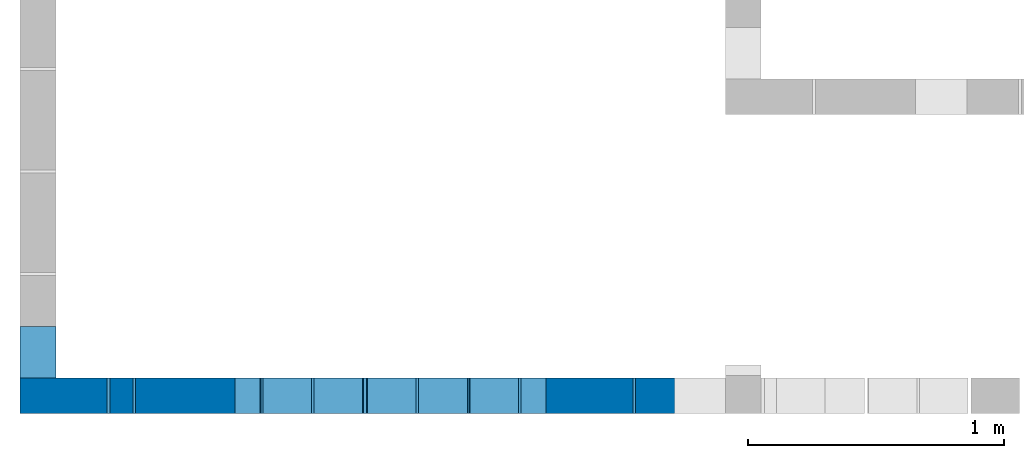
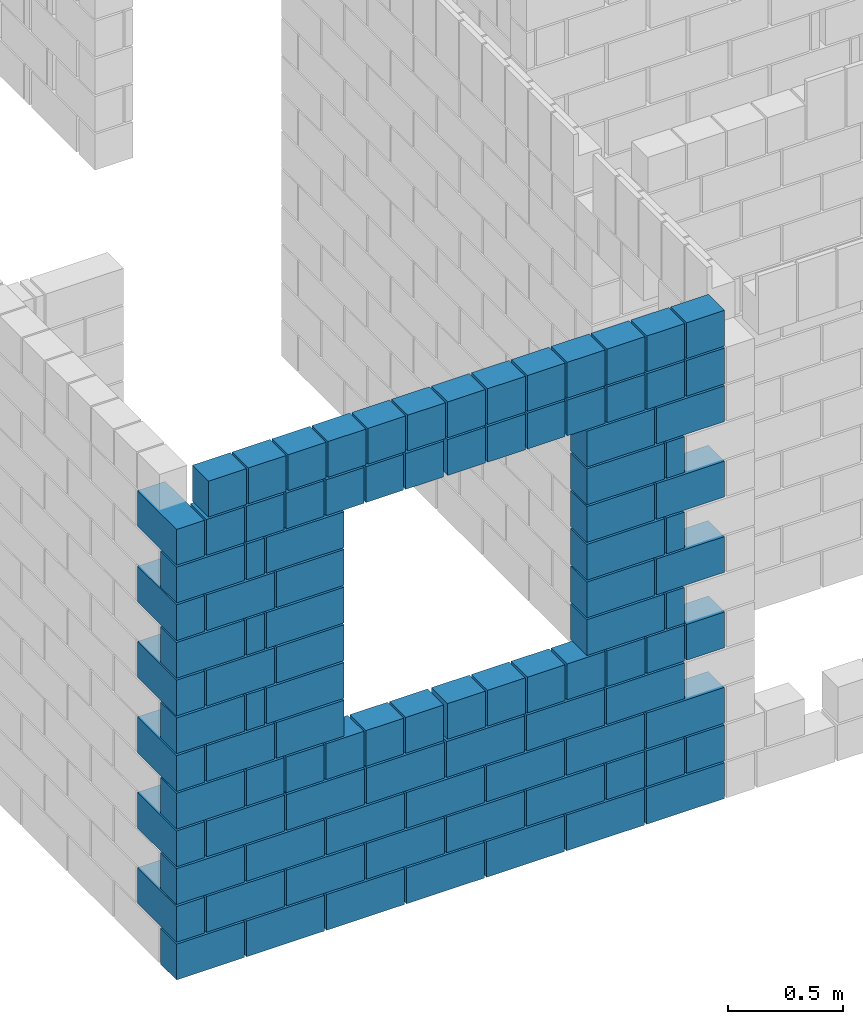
# One storey, part 1 of 12: 2 walls.
"""IFC4 building model written with IfcOpenShell, lengths in centimetres."""

import ifcopenshell
import ifcopenshell.guid

model = None  # the IFC model being written
_history = None  # IfcOwnerHistory: only IFC2X3 demands one
_inside = {}  # id of a spatial element -> (the spatial element, [elements in it])
_under = {}  # id of a project, library or spatial element -> (it, [spatial elements below it])
_declared = {}  # id of a project -> (the project, [libraries it declares])
_typed = {}  # id of a type object -> (the type object, [elements of that type])
_made_of = {}  # id of a material, layer set ... -> (it, [elements and type objects made of it])


def new_model(schema):
    """Start an empty IFC model of exactly this schema.

    Asked for "IFC4X3", IfcOpenShell would pick the latest addendum, in which some entities
    have other attributes; the version numbers below select the first issue.
    IFC2X3 requires an IfcOwnerHistory on every rooted entity: one is made here for all.
    """
    global model, _history
    if schema == "IFC4X3":
        model = ifcopenshell.file(schema_version=(4, 3, 0, 0))
    else:
        model = ifcopenshell.file(schema=schema)
    _inside.clear()
    _under.clear()
    _declared.clear()
    _typed.clear()
    _made_of.clear()
    _history = None
    if model.schema == "IFC2X3":
        org = make("IfcOrganization", Name="unknown")
        user = make(
            "IfcPersonAndOrganization",
            ThePerson=make("IfcPerson", FamilyName="unknown"),
            TheOrganization=org,
        )
        app = make(
            "IfcApplication",
            ApplicationDeveloper=org,
            Version="unknown",
            ApplicationFullName="unknown",
            ApplicationIdentifier="unknown",
        )
        _history = make(
            "IfcOwnerHistory",
            OwningUser=user,
            OwningApplication=app,
            ChangeAction="ADDED",
            CreationDate=0,
        )
    return model


def make(cls, **values):
    """One entity of the class cls with the attributes given. An attribute that is None is left unset."""
    return model.create_entity(
        cls, **{name: value for name, value in values.items() if value is not None}
    )


def rooted(cls, **values):
    """An entity with a GlobalId (a new one), such as an element, a storey or a relation."""
    return make(cls, GlobalId=ifcopenshell.guid.new(), OwnerHistory=_history, **values)


def si_unit(unit_type, name, prefix=None):
    """IfcSIUnit, for example si_unit("LENGTHUNIT", "METRE", prefix="MILLI")."""
    return make("IfcSIUnit", UnitType=unit_type, Prefix=prefix, Name=name)


def derived_unit(unit_type, elements):
    """IfcDerivedUnit: a product of units, each with its exponent."""
    return make(
        "IfcDerivedUnit",
        Elements=[
            make("IfcDerivedUnitElement", Unit=unit, Exponent=power)
            for unit, power in elements
        ],
        UnitType=unit_type,
    )


def assignment(units):
    """IfcUnitAssignment: the units of a project."""
    return None if units is None else make("IfcUnitAssignment", Units=units)


def point(xyz):
    """IfcCartesianPoint."""
    return None if xyz is None else make("IfcCartesianPoint", Coordinates=xyz)


def direction(xyz):
    """IfcDirection."""
    return None if xyz is None else make("IfcDirection", DirectionRatios=xyz)


def frame(location, z_axis=None, x_axis=None):
    """IfcAxis2Placement3D, a coordinate frame: its origin and axes. An axis left out is left unset."""
    return make(
        "IfcAxis2Placement3D",
        Location=point(location),
        Axis=direction(z_axis),
        RefDirection=direction(x_axis),
    )


def frame_2d(location, x_axis=None):
    """IfcAxis2Placement2D, a coordinate frame in the plane: its origin and x axis."""
    return make(
        "IfcAxis2Placement2D", Location=point(location), RefDirection=direction(x_axis)
    )


def origin():
    """The frame at (0, 0, 0) with its axes left unset."""
    return frame((0.0, 0.0, 0.0))


def origin_with_axes():
    """The frame at (0, 0, 0) with the z axis (0, 0, 1) and the x axis (1, 0, 0) written out."""
    return frame((0.0, 0.0, 0.0), z_axis=(0.0, 0.0, 1.0), x_axis=(1.0, 0.0, 0.0))


def origin_2d_with_axis():
    """The frame at (0, 0) in the plane with the x axis (1, 0) written out."""
    return frame_2d((0.0, 0.0), x_axis=(1.0, 0.0))


def place(relative_to, where):
    """IfcLocalPlacement: puts the frame where relative to a parent placement (None: the world)."""
    return make(
        "IfcLocalPlacement", PlacementRelTo=relative_to, RelativePlacement=where
    )


def context(
    kind, dimensions, precision=None, world=None, true_north=None, identifier=None
):
    """IfcGeometricRepresentationContext, for example the 3D "Model" context."""
    return make(
        "IfcGeometricRepresentationContext",
        ContextIdentifier=identifier,
        ContextType=kind,
        CoordinateSpaceDimension=dimensions,
        Precision=precision,
        WorldCoordinateSystem=world,
        TrueNorth=true_north,
    )


def project(units=None, contexts=None):
    """IfcProject with its units and contexts."""
    return rooted(
        "IfcProject",
        Name="project",
        RepresentationContexts=contexts,
        UnitsInContext=assignment(units),
    )


def spatial(cls, under=None, at=None, **own):
    """A site, building, storey or space (cls), placed at a placement, below another one or the project."""
    s = rooted(cls, ObjectPlacement=at, **own)
    if under is not None:
        _under.setdefault(under.id(), (under, []))[1].append(s)
    return s


def profile(cls, at=None, kind="AREA", **sizes):
    """A parametric profile (cls). Its sizes go by their IFC names, for example OverallWidth=200.0."""
    return make(cls, ProfileType=kind, Position=at, **sizes)


def rectangle(**sizes):
    """IfcRectangleProfileDef."""
    return profile("IfcRectangleProfileDef", **sizes)


def extrude(swept, where, along, depth):
    """IfcExtrudedAreaSolid: the profile swept, set in the frame where, extruded along a direction by depth."""
    return make(
        "IfcExtrudedAreaSolid",
        SweptArea=swept,
        Position=where,
        ExtrudedDirection=direction(along),
        Depth=depth,
    )


def shape(context_of_items, identifier, shape_type, items):
    """IfcShapeRepresentation: the items that make up one representation, for example the "Body"."""
    return make(
        "IfcShapeRepresentation",
        ContextOfItems=context_of_items,
        RepresentationIdentifier=identifier,
        RepresentationType=shape_type,
        Items=items,
    )


def made_of(thing, what):
    """Note that an element or type object is made of a material, layer set ...; save() writes the relation."""
    if what is not None:
        _made_of.setdefault(what.id(), (what, []))[1].append(thing)
    return thing


def element(
    cls,
    number,
    at=None,
    inside=None,
    cuts=None,
    type_object=None,
    material=None,
    context=None,
    identifier="Body",
    shape_type=None,
    held_by="IfcProductDefinitionShape",
    body=None,
    shapes=None,
    **own,
):
    """One element of the class cls, such as IfcWall. Its Tag is "e" and its number.

    at: its placement. inside: the storey or other place that contains it. cuts: it is an
    opening in that element (IfcRelVoidsElement). A single representation is given by context,
    identifier, shape_type and body (its items); several are given by shapes. held_by: the class
    of the entity that holds the representations. save() writes the other relations.
    """
    e = rooted(cls, Tag="e%d" % number, ObjectPlacement=at, **own)
    if body is not None:
        shapes = [shape(context, identifier, shape_type, body)]
    if shapes is not None:
        e.Representation = make(held_by, Representations=shapes)
    if inside is not None:
        _inside.setdefault(inside.id(), (inside, []))[1].append(e)
    if cuts is not None:
        rooted(
            "IfcRelVoidsElement", RelatingBuildingElement=cuts, RelatedOpeningElement=e
        )
    if type_object is not None:
        _typed.setdefault(type_object.id(), (type_object, []))[1].append(e)
    return made_of(e, material)


def aggregate(whole, parts):
    """IfcRelAggregates: a whole, such as a stair, and the parts it consists of."""
    return rooted("IfcRelAggregates", RelatingObject=whole, RelatedObjects=parts)


def save(model, path):
    """Write the relations noted so far, then the file.

    IfcRelAggregates (storeys below a building ...), IfcRelContainedInSpatialStructure (elements
    in a storey), IfcRelDefinesByType, IfcRelAssociatesMaterial and IfcRelDeclares: one each for
    every whole, place, type object, material and project.
    """
    for whole, parts in _under.values():
        aggregate(whole, parts)
    for where, things in _inside.values():
        rooted(
            "IfcRelContainedInSpatialStructure",
            RelatedElements=things,
            RelatingStructure=where,
        )
    for kind, things in _typed.values():
        rooted("IfcRelDefinesByType", RelatedObjects=things, RelatingType=kind)
    for what, things in _made_of.values():
        rooted("IfcRelAssociatesMaterial", RelatedObjects=things, RelatingMaterial=what)
    for by, libraries in _declared.values():
        rooted("IfcRelDeclares", RelatingContext=by, RelatedDefinitions=libraries)
    model.write(path)


model = new_model("IFC4")

# Units and contexts
model_context = context("Model", 3, precision=1e-05, world=origin_with_axes(), identifier="Body")
ifc_project = project(units=[si_unit("LENGTHUNIT", "METRE", prefix="CENTI"), si_unit("VOLUMEUNIT", "CUBIC_METRE"), si_unit("AREAUNIT", "SQUARE_METRE"), si_unit("POWERUNIT", "WATT"), si_unit("LUMINOUSFLUXUNIT", "LUMEN"), si_unit("ELECTRICCURRENTUNIT", "AMPERE"), si_unit("PRESSUREUNIT", "PASCAL", prefix="KILO"), si_unit("MASSUNIT", "GRAM", prefix="KILO"), si_unit("PLANEANGLEUNIT", "RADIAN"), derived_unit("VOLUMETRICFLOWRATEUNIT", [(si_unit("LENGTHUNIT", "METRE"), 3), (si_unit("TIMEUNIT", "SECOND"), -1)])], contexts=[model_context])

# Site, building, storey
site_placement = place(None, origin_with_axes())
site = spatial("IfcSite", under=ifc_project, at=site_placement)
building_placement = place(site_placement, origin())
building = spatial("IfcBuilding", under=site, at=building_placement)
storey_placement = place(building_placement, origin_with_axes())
storey = spatial("IfcBuildingStorey", under=building, at=storey_placement, Name="PISO", CompositionType="ELEMENT", Elevation=0.0)

# Walls
wall_1_placement = place(storey_placement, frame((18.0, 18.0, 239.0), z_axis=(0.0, 0.0, 1.0), x_axis=(1.0, 0.0, 0.0)))
element("IfcWall", 1, at=wall_1_placement, inside=storey, context=model_context, shape_type="SolidModel", body=[
    extrude(rectangle(XDim=34.0, YDim=14.0, at=origin_2d_with_axis()), frame((0.0, -10.0, -239.0), z_axis=(0.0, 0.0, 1.0), x_axis=(1.0, 0.0, 0.0)), (0.0, 0.0, 1.0), 19.0),
    extrude(rectangle(XDim=34.0, YDim=14.0, at=origin_2d_with_axis()), frame((-10.0, 0.0, -219.0), z_axis=(0.0, 0.0, 1.0), x_axis=(0.0, 1.0, 0.0)), (0.0, 0.0, 1.0), 19.0),
    extrude(rectangle(XDim=34.0, YDim=14.0, at=origin_2d_with_axis()), frame((0.0, -10.0, -199.0), z_axis=(0.0, 0.0, 1.0), x_axis=(1.0, 0.0, 0.0)), (0.0, 0.0, 1.0), 19.0),
    extrude(rectangle(XDim=34.0, YDim=14.0, at=origin_2d_with_axis()), frame((-10.0, 0.0, -179.0), z_axis=(0.0, 0.0, 1.0), x_axis=(0.0, 1.0, 0.0)), (0.0, 0.0, 1.0), 19.0),
    extrude(rectangle(XDim=34.0, YDim=14.0, at=origin_2d_with_axis()), frame((0.0, -10.0, -159.0), z_axis=(0.0, 0.0, 1.0), x_axis=(1.0, 0.0, 0.0)), (0.0, 0.0, 1.0), 19.0),
    extrude(rectangle(XDim=34.0, YDim=14.0, at=origin_2d_with_axis()), frame((-10.0, 0.0, -139.0), z_axis=(0.0, 0.0, 1.0), x_axis=(0.0, 1.0, 0.0)), (0.0, 0.0, 1.0), 19.0),
    extrude(rectangle(XDim=34.0, YDim=14.0, at=origin_2d_with_axis()), frame((0.0, -10.0, -119.0), z_axis=(0.0, 0.0, 1.0), x_axis=(1.0, 0.0, 0.0)), (0.0, 0.0, 1.0), 19.0),
    extrude(rectangle(XDim=34.0, YDim=14.0, at=origin_2d_with_axis()), frame((-10.0, 0.0, -99.0), z_axis=(0.0, 0.0, 1.0), x_axis=(0.0, 1.0, 0.0)), (0.0, 0.0, 1.0), 19.0),
    extrude(rectangle(XDim=34.0, YDim=14.0, at=origin_2d_with_axis()), frame((0.0, -10.0, -79.0), z_axis=(0.0, 0.0, 1.0), x_axis=(1.0, 0.0, 0.0)), (0.0, 0.0, 1.0), 19.0),
    extrude(rectangle(XDim=34.0, YDim=14.0, at=origin_2d_with_axis()), frame((-10.0, 0.0, -59.0), z_axis=(0.0, 0.0, 1.0), x_axis=(0.0, 1.0, 0.0)), (0.0, 0.0, 1.0), 19.0),
    extrude(rectangle(XDim=34.0, YDim=14.0, at=origin_2d_with_axis()), frame((0.0, -10.0, -39.0), z_axis=(0.0, 0.0, 1.0), x_axis=(1.0, 0.0, 0.0)), (0.0, 0.0, 1.0), 19.0),
    extrude(rectangle(XDim=34.0, YDim=14.0, at=origin_2d_with_axis()), frame((-10.0, 0.0, -19.0), z_axis=(0.0, 0.0, 1.0), x_axis=(0.0, 1.0, 0.0)), (0.0, 0.0, 1.0), 19.0),
])
wall_2_placement = place(storey_placement, frame((146.0, 8.0, 259.0), z_axis=(0.0, 0.0, 1.0), x_axis=(1.0, 0.0, 0.0)))
element("IfcWall", 2, at=wall_2_placement, inside=storey, Name="PAR-PISO-10", context=model_context, shape_type="SolidModel", body=[
    extrude(rectangle(XDim=39.0, YDim=14.0, at=origin_2d_with_axis()), frame((110.35714285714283, 0.0, -259.0), z_axis=(0.0, 0.0, 1.0), x_axis=(-1.0, 0.0, 0.0)), (0.0, 0.0, 1.0), 19.0),
    extrude(rectangle(XDim=39.0, YDim=14.0, at=origin_2d_with_axis()), frame((70.21428571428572, 0.0, -259.0), z_axis=(0.0, 0.0, 1.0), x_axis=(-1.0, 0.0, 0.0)), (0.0, 0.0, 1.0), 19.0),
    extrude(rectangle(XDim=39.0, YDim=14.0, at=origin_2d_with_axis()), frame((30.071428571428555, 0.0, -259.0), z_axis=(0.0, 0.0, 1.0), x_axis=(-1.0, 0.0, 0.0)), (0.0, 0.0, 1.0), 19.0),
    extrude(rectangle(XDim=39.0, YDim=14.0, at=origin_2d_with_axis()), frame((-10.071428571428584, 0.0, -259.0), z_axis=(0.0, 0.0, 1.0), x_axis=(-1.0, 0.0, 0.0)), (0.0, 0.0, 1.0), 19.0),
    extrude(rectangle(XDim=39.0, YDim=14.0, at=origin_2d_with_axis()), frame((-50.21428571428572, 0.0, -259.0), z_axis=(0.0, 0.0, 1.0), x_axis=(-1.0, 0.0, 0.0)), (0.0, 0.0, 1.0), 19.0),
    extrude(rectangle(XDim=39.0, YDim=14.0, at=origin_2d_with_axis()), frame((-90.35714285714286, 0.0, -259.0), z_axis=(0.0, 0.0, 1.0), x_axis=(-1.0, 0.0, 0.0)), (0.0, 0.0, 1.0), 19.0),
    extrude(rectangle(XDim=39.0, YDim=14.0, at=origin_2d_with_axis()), frame((50.21428571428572, 0.0, -239.0), z_axis=(0.0, 0.0, 1.0), x_axis=(-1.0, 0.0, 0.0)), (0.0, 0.0, 1.0), 19.0),
    extrude(rectangle(XDim=39.0, YDim=14.0, at=origin_2d_with_axis()), frame((10.071428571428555, 0.0, -239.0), z_axis=(0.0, 0.0, 1.0), x_axis=(-1.0, 0.0, 0.0)), (0.0, 0.0, 1.0), 19.0),
    extrude(rectangle(XDim=39.0, YDim=14.0, at=origin_2d_with_axis()), frame((-30.071428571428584, 0.0, -239.0), z_axis=(0.0, 0.0, 1.0), x_axis=(-1.0, 0.0, 0.0)), (0.0, 0.0, 1.0), 19.0),
    extrude(rectangle(XDim=39.0, YDim=14.0, at=origin_2d_with_axis()), frame((-70.21428571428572, 0.0, -239.0), z_axis=(0.0, 0.0, 1.0), x_axis=(-1.0, 0.0, 0.0)), (0.0, 0.0, 1.0), 19.0),
    extrude(rectangle(XDim=39.0, YDim=14.0, at=origin_2d_with_axis()), frame((-110.35714285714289, 0.0, -239.0), z_axis=(0.0, 0.0, 1.0), x_axis=(-1.0, 0.0, 0.0)), (0.0, 0.0, 1.0), 19.0),
    extrude(rectangle(XDim=19.0, YDim=14.0, at=origin_2d_with_axis()), frame((120.35714285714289, 0.0, -239.0), z_axis=(0.0, 0.0, 1.0), x_axis=(-1.0, 0.0, 0.0)), (0.0, 0.0, 1.0), 19.0),
    extrude(rectangle(XDim=19.0, YDim=14.0, at=origin_2d_with_axis()), frame((100.35714285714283, 0.0, -239.0), z_axis=(0.0, 0.0, 1.0), x_axis=(-1.0, 0.0, 0.0)), (0.0, 0.0, 1.0), 19.0),
    extrude(rectangle(XDim=19.0, YDim=14.0, at=origin_2d_with_axis()), frame((80.35714285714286, 0.0, -239.0), z_axis=(0.0, 0.0, 1.0), x_axis=(-1.0, 0.0, 0.0)), (0.0, 0.0, 1.0), 19.0),
    extrude(rectangle(XDim=39.0, YDim=14.0, at=origin_2d_with_axis()), frame((110.35714285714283, 0.0, -219.0), z_axis=(0.0, 0.0, 1.0), x_axis=(-1.0, 0.0, 0.0)), (0.0, 0.0, 1.0), 19.0),
    extrude(rectangle(XDim=39.0, YDim=14.0, at=origin_2d_with_axis()), frame((70.21428571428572, 0.0, -219.0), z_axis=(0.0, 0.0, 1.0), x_axis=(-1.0, 0.0, 0.0)), (0.0, 0.0, 1.0), 19.0),
    extrude(rectangle(XDim=39.0, YDim=14.0, at=origin_2d_with_axis()), frame((30.071428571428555, 0.0, -219.0), z_axis=(0.0, 0.0, 1.0), x_axis=(-1.0, 0.0, 0.0)), (0.0, 0.0, 1.0), 19.0),
    extrude(rectangle(XDim=39.0, YDim=14.0, at=origin_2d_with_axis()), frame((-10.071428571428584, 0.0, -219.0), z_axis=(0.0, 0.0, 1.0), x_axis=(-1.0, 0.0, 0.0)), (0.0, 0.0, 1.0), 19.0),
    extrude(rectangle(XDim=39.0, YDim=14.0, at=origin_2d_with_axis()), frame((-50.21428571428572, 0.0, -219.0), z_axis=(0.0, 0.0, 1.0), x_axis=(-1.0, 0.0, 0.0)), (0.0, 0.0, 1.0), 19.0),
    extrude(rectangle(XDim=39.0, YDim=14.0, at=origin_2d_with_axis()), frame((-90.35714285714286, 0.0, -219.0), z_axis=(0.0, 0.0, 1.0), x_axis=(-1.0, 0.0, 0.0)), (0.0, 0.0, 1.0), 19.0),
    extrude(rectangle(XDim=39.0, YDim=14.0, at=origin_2d_with_axis()), frame((90.35714285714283, 0.0, -199.0), z_axis=(0.0, 0.0, 1.0), x_axis=(-1.0, 0.0, 0.0)), (0.0, 0.0, 1.0), 19.0),
    extrude(rectangle(XDim=39.0, YDim=14.0, at=origin_2d_with_axis()), frame((50.21428571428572, 0.0, -199.0), z_axis=(0.0, 0.0, 1.0), x_axis=(-1.0, 0.0, 0.0)), (0.0, 0.0, 1.0), 19.0),
    extrude(rectangle(XDim=39.0, YDim=14.0, at=origin_2d_with_axis()), frame((10.071428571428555, 0.0, -199.0), z_axis=(0.0, 0.0, 1.0), x_axis=(-1.0, 0.0, 0.0)), (0.0, 0.0, 1.0), 19.0),
    extrude(rectangle(XDim=39.0, YDim=14.0, at=origin_2d_with_axis()), frame((-30.071428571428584, 0.0, -199.0), z_axis=(0.0, 0.0, 1.0), x_axis=(-1.0, 0.0, 0.0)), (0.0, 0.0, 1.0), 19.0),
    extrude(rectangle(XDim=39.0, YDim=14.0, at=origin_2d_with_axis()), frame((-70.21428571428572, 0.0, -199.0), z_axis=(0.0, 0.0, 1.0), x_axis=(-1.0, 0.0, 0.0)), (0.0, 0.0, 1.0), 19.0),
    extrude(rectangle(XDim=39.0, YDim=14.0, at=origin_2d_with_axis()), frame((-110.35714285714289, 0.0, -199.0), z_axis=(0.0, 0.0, 1.0), x_axis=(-1.0, 0.0, 0.0)), (0.0, 0.0, 1.0), 19.0),
    extrude(rectangle(XDim=19.0, YDim=14.0, at=origin_2d_with_axis()), frame((120.5, 0.0, -179.0), z_axis=(0.0, 0.0, 1.0), x_axis=(-1.0, 0.0, 0.0)), (0.0, 0.0, 1.0), 19.0),
    extrude(rectangle(XDim=19.0, YDim=14.0, at=origin_2d_with_axis()), frame((100.5, 0.0, -179.0), z_axis=(0.0, 0.0, 1.0), x_axis=(-1.0, 0.0, 0.0)), (0.0, 0.0, 1.0), 19.0),
    extrude(rectangle(XDim=19.0, YDim=14.0, at=origin_2d_with_axis()), frame((80.5, 0.0, -179.0), z_axis=(0.0, 0.0, 1.0), x_axis=(-1.0, 0.0, 0.0)), (0.0, 0.0, 1.0), 19.0),
    extrude(rectangle(XDim=19.0, YDim=14.0, at=origin_2d_with_axis()), frame((60.5, 0.0, -179.0), z_axis=(0.0, 0.0, 1.0), x_axis=(-1.0, 0.0, 0.0)), (0.0, 0.0, 1.0), 19.0),
    extrude(rectangle(XDim=19.0, YDim=14.0, at=origin_2d_with_axis()), frame((40.5, 0.0, -179.0), z_axis=(0.0, 0.0, 1.0), x_axis=(-1.0, 0.0, 0.0)), (0.0, 0.0, 1.0), 19.0),
    extrude(rectangle(XDim=19.0, YDim=14.0, at=origin_2d_with_axis()), frame((20.5, 0.0, -179.0), z_axis=(0.0, 0.0, 1.0), x_axis=(-1.0, 0.0, 0.0)), (0.0, 0.0, 1.0), 19.0),
    extrude(rectangle(XDim=19.0, YDim=14.0, at=origin_2d_with_axis()), frame((0.5, 0.0, -179.0), z_axis=(0.0, 0.0, 1.0), x_axis=(-1.0, 0.0, 0.0)), (0.0, 0.0, 1.0), 19.0),
    extrude(rectangle(XDim=19.0, YDim=14.0, at=origin_2d_with_axis()), frame((-20.5, 0.0, -179.0), z_axis=(0.0, 0.0, 1.0), x_axis=(-1.0, 0.0, 0.0)), (0.0, 0.0, 1.0), 19.0),
    extrude(rectangle(XDim=19.0, YDim=14.0, at=origin_2d_with_axis()), frame((-40.5, 0.0, -179.0), z_axis=(0.0, 0.0, 1.0), x_axis=(-1.0, 0.0, 0.0)), (0.0, 0.0, 1.0), 19.0),
    extrude(rectangle(XDim=19.0, YDim=14.0, at=origin_2d_with_axis()), frame((-60.5, 0.0, -179.0), z_axis=(0.0, 0.0, 1.0), x_axis=(-1.0, 0.0, 0.0)), (0.0, 0.0, 1.0), 19.0),
    extrude(rectangle(XDim=19.0, YDim=14.0, at=origin_2d_with_axis()), frame((-80.5, 0.0, -179.0), z_axis=(0.0, 0.0, 1.0), x_axis=(-1.0, 0.0, 0.0)), (0.0, 0.0, 1.0), 19.0),
    extrude(rectangle(XDim=19.0, YDim=14.0, at=origin_2d_with_axis()), frame((-100.5, 0.0, -179.0), z_axis=(0.0, 0.0, 1.0), x_axis=(-1.0, 0.0, 0.0)), (0.0, 0.0, 1.0), 19.0),
    extrude(rectangle(XDim=34.0, YDim=14.0, at=origin_2d_with_axis()), frame((-77.85714285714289, 0.0, -159.0), z_axis=(0.0, 0.0, 1.0), x_axis=(-1.0, 0.0, 0.0)), (0.0, 0.0, 1.0), 19.0),
    extrude(rectangle(XDim=34.0, YDim=14.0, at=origin_2d_with_axis()), frame((-112.85714285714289, 0.0, -159.0), z_axis=(0.0, 0.0, 1.0), x_axis=(-1.0, 0.0, 0.0)), (0.0, 0.0, 1.0), 19.0),
    extrude(rectangle(XDim=9.0, YDim=14.0, at=origin_2d_with_axis()), frame((105.35714285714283, 0.0, -159.0), z_axis=(0.0, 0.0, 1.0), x_axis=(-1.0, 0.0, 0.0)), (0.0, 0.0, 1.0), 19.0),
    extrude(rectangle(XDim=39.0, YDim=14.0, at=origin_2d_with_axis()), frame((80.35714285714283, 0.0, -159.0), z_axis=(0.0, 0.0, 1.0), x_axis=(-1.0, 0.0, 0.0)), (0.0, 0.0, 1.0), 19.0),
    extrude(rectangle(XDim=9.0, YDim=14.0, at=origin_2d_with_axis()), frame((-105.35714285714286, 0.0, -139.0), z_axis=(0.0, 0.0, 1.0), x_axis=(-1.0, 0.0, 0.0)), (0.0, 0.0, 1.0), 19.0),
    extrude(rectangle(XDim=39.0, YDim=14.0, at=origin_2d_with_axis()), frame((-80.35714285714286, 0.0, -139.0), z_axis=(0.0, 0.0, 1.0), x_axis=(-1.0, 0.0, 0.0)), (0.0, 0.0, 1.0), 19.0),
    extrude(rectangle(XDim=34.0, YDim=14.0, at=origin_2d_with_axis()), frame((112.85714285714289, 0.0, -139.0), z_axis=(0.0, 0.0, 1.0), x_axis=(-1.0, 0.0, 0.0)), (0.0, 0.0, 1.0), 19.0),
    extrude(rectangle(XDim=34.0, YDim=14.0, at=origin_2d_with_axis()), frame((77.85714285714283, 0.0, -139.0), z_axis=(0.0, 0.0, 1.0), x_axis=(-1.0, 0.0, 0.0)), (0.0, 0.0, 1.0), 19.0),
    extrude(rectangle(XDim=34.0, YDim=14.0, at=origin_2d_with_axis()), frame((-77.85714285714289, 0.0, -119.0), z_axis=(0.0, 0.0, 1.0), x_axis=(-1.0, 0.0, 0.0)), (0.0, 0.0, 1.0), 19.0),
    extrude(rectangle(XDim=34.0, YDim=14.0, at=origin_2d_with_axis()), frame((-112.85714285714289, 0.0, -119.0), z_axis=(0.0, 0.0, 1.0), x_axis=(-1.0, 0.0, 0.0)), (0.0, 0.0, 1.0), 19.0),
    extrude(rectangle(XDim=9.0, YDim=14.0, at=origin_2d_with_axis()), frame((105.35714285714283, 0.0, -119.0), z_axis=(0.0, 0.0, 1.0), x_axis=(-1.0, 0.0, 0.0)), (0.0, 0.0, 1.0), 19.0),
    extrude(rectangle(XDim=39.0, YDim=14.0, at=origin_2d_with_axis()), frame((80.35714285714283, 0.0, -119.0), z_axis=(0.0, 0.0, 1.0), x_axis=(-1.0, 0.0, 0.0)), (0.0, 0.0, 1.0), 19.0),
    extrude(rectangle(XDim=9.0, YDim=14.0, at=origin_2d_with_axis()), frame((-105.35714285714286, 0.0, -99.0), z_axis=(0.0, 0.0, 1.0), x_axis=(-1.0, 0.0, 0.0)), (0.0, 0.0, 1.0), 19.0),
    extrude(rectangle(XDim=39.0, YDim=14.0, at=origin_2d_with_axis()), frame((-80.35714285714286, 0.0, -99.0), z_axis=(0.0, 0.0, 1.0), x_axis=(-1.0, 0.0, 0.0)), (0.0, 0.0, 1.0), 19.0),
    extrude(rectangle(XDim=34.0, YDim=14.0, at=origin_2d_with_axis()), frame((112.85714285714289, 0.0, -99.0), z_axis=(0.0, 0.0, 1.0), x_axis=(-1.0, 0.0, 0.0)), (0.0, 0.0, 1.0), 19.0),
    extrude(rectangle(XDim=34.0, YDim=14.0, at=origin_2d_with_axis()), frame((77.85714285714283, 0.0, -99.0), z_axis=(0.0, 0.0, 1.0), x_axis=(-1.0, 0.0, 0.0)), (0.0, 0.0, 1.0), 19.0),
    extrude(rectangle(XDim=34.0, YDim=14.0, at=origin_2d_with_axis()), frame((-77.85714285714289, 0.0, -79.0), z_axis=(0.0, 0.0, 1.0), x_axis=(-1.0, 0.0, 0.0)), (0.0, 0.0, 1.0), 19.0),
    extrude(rectangle(XDim=34.0, YDim=14.0, at=origin_2d_with_axis()), frame((-112.85714285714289, 0.0, -79.0), z_axis=(0.0, 0.0, 1.0), x_axis=(-1.0, 0.0, 0.0)), (0.0, 0.0, 1.0), 19.0),
    extrude(rectangle(XDim=9.0, YDim=14.0, at=origin_2d_with_axis()), frame((105.35714285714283, 0.0, -79.0), z_axis=(0.0, 0.0, 1.0), x_axis=(-1.0, 0.0, 0.0)), (0.0, 0.0, 1.0), 19.0),
    extrude(rectangle(XDim=39.0, YDim=14.0, at=origin_2d_with_axis()), frame((80.35714285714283, 0.0, -79.0), z_axis=(0.0, 0.0, 1.0), x_axis=(-1.0, 0.0, 0.0)), (0.0, 0.0, 1.0), 19.0),
    extrude(rectangle(XDim=9.0, YDim=14.0, at=origin_2d_with_axis()), frame((-105.35714285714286, 0.0, -59.0), z_axis=(0.0, 0.0, 1.0), x_axis=(-1.0, 0.0, 0.0)), (0.0, 0.0, 1.0), 19.0),
    extrude(rectangle(XDim=39.0, YDim=14.0, at=origin_2d_with_axis()), frame((-80.35714285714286, 0.0, -59.0), z_axis=(0.0, 0.0, 1.0), x_axis=(-1.0, 0.0, 0.0)), (0.0, 0.0, 1.0), 19.0),
    extrude(rectangle(XDim=34.0, YDim=14.0, at=origin_2d_with_axis()), frame((112.85714285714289, 0.0, -59.0), z_axis=(0.0, 0.0, 1.0), x_axis=(-1.0, 0.0, 0.0)), (0.0, 0.0, 1.0), 19.0),
    extrude(rectangle(XDim=34.0, YDim=14.0, at=origin_2d_with_axis()), frame((77.85714285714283, 0.0, -59.0), z_axis=(0.0, 0.0, 1.0), x_axis=(-1.0, 0.0, 0.0)), (0.0, 0.0, 1.0), 19.0),
    extrude(rectangle(XDim=19.0, YDim=14.0, at=origin_2d_with_axis()), frame((120.5, 0.0, -39.0), z_axis=(0.0, 0.0, 1.0), x_axis=(-1.0, 0.0, 0.0)), (0.0, 0.0, 1.0), 19.0),
    extrude(rectangle(XDim=19.0, YDim=14.0, at=origin_2d_with_axis()), frame((100.5, 0.0, -39.0), z_axis=(0.0, 0.0, 1.0), x_axis=(-1.0, 0.0, 0.0)), (0.0, 0.0, 1.0), 19.0),
    extrude(rectangle(XDim=19.0, YDim=14.0, at=origin_2d_with_axis()), frame((80.5, 0.0, -39.0), z_axis=(0.0, 0.0, 1.0), x_axis=(-1.0, 0.0, 0.0)), (0.0, 0.0, 1.0), 19.0),
    extrude(rectangle(XDim=19.0, YDim=14.0, at=origin_2d_with_axis()), frame((60.5, 0.0, -39.0), z_axis=(0.0, 0.0, 1.0), x_axis=(-1.0, 0.0, 0.0)), (0.0, 0.0, 1.0), 19.0),
    extrude(rectangle(XDim=19.0, YDim=14.0, at=origin_2d_with_axis()), frame((40.5, 0.0, -39.0), z_axis=(0.0, 0.0, 1.0), x_axis=(-1.0, 0.0, 0.0)), (0.0, 0.0, 1.0), 19.0),
    extrude(rectangle(XDim=19.0, YDim=14.0, at=origin_2d_with_axis()), frame((20.5, 0.0, -39.0), z_axis=(0.0, 0.0, 1.0), x_axis=(-1.0, 0.0, 0.0)), (0.0, 0.0, 1.0), 19.0),
    extrude(rectangle(XDim=19.0, YDim=14.0, at=origin_2d_with_axis()), frame((0.5, 0.0, -39.0), z_axis=(0.0, 0.0, 1.0), x_axis=(-1.0, 0.0, 0.0)), (0.0, 0.0, 1.0), 19.0),
    extrude(rectangle(XDim=19.0, YDim=14.0, at=origin_2d_with_axis()), frame((-20.5, 0.0, -39.0), z_axis=(0.0, 0.0, 1.0), x_axis=(-1.0, 0.0, 0.0)), (0.0, 0.0, 1.0), 19.0),
    extrude(rectangle(XDim=19.0, YDim=14.0, at=origin_2d_with_axis()), frame((-40.5, 0.0, -39.0), z_axis=(0.0, 0.0, 1.0), x_axis=(-1.0, 0.0, 0.0)), (0.0, 0.0, 1.0), 19.0),
    extrude(rectangle(XDim=19.0, YDim=14.0, at=origin_2d_with_axis()), frame((-60.5, 0.0, -39.0), z_axis=(0.0, 0.0, 1.0), x_axis=(-1.0, 0.0, 0.0)), (0.0, 0.0, 1.0), 19.0),
    extrude(rectangle(XDim=19.0, YDim=14.0, at=origin_2d_with_axis()), frame((-80.5, 0.0, -39.0), z_axis=(0.0, 0.0, 1.0), x_axis=(-1.0, 0.0, 0.0)), (0.0, 0.0, 1.0), 19.0),
    extrude(rectangle(XDim=19.0, YDim=14.0, at=origin_2d_with_axis()), frame((-100.5, 0.0, -39.0), z_axis=(0.0, 0.0, 1.0), x_axis=(-1.0, 0.0, 0.0)), (0.0, 0.0, 1.0), 19.0),
    extrude(rectangle(XDim=19.0, YDim=14.0, at=origin_2d_with_axis()), frame((-120.5, 0.0, -39.0), z_axis=(0.0, 0.0, 1.0), x_axis=(-1.0, 0.0, 0.0)), (0.0, 0.0, 1.0), 19.0),
    extrude(rectangle(XDim=19.0, YDim=14.0, at=origin_2d_with_axis()), frame((120.5, 0.0, -19.0), z_axis=(0.0, 0.0, 1.0), x_axis=(-1.0, 0.0, 0.0)), (0.0, 0.0, 1.0), 19.0),
    extrude(rectangle(XDim=19.0, YDim=14.0, at=origin_2d_with_axis()), frame((100.5, 0.0, -19.0), z_axis=(0.0, 0.0, 1.0), x_axis=(-1.0, 0.0, 0.0)), (0.0, 0.0, 1.0), 19.0),
    extrude(rectangle(XDim=19.0, YDim=14.0, at=origin_2d_with_axis()), frame((80.5, 0.0, -19.0), z_axis=(0.0, 0.0, 1.0), x_axis=(-1.0, 0.0, 0.0)), (0.0, 0.0, 1.0), 19.0),
    extrude(rectangle(XDim=19.0, YDim=14.0, at=origin_2d_with_axis()), frame((60.5, 0.0, -19.0), z_axis=(0.0, 0.0, 1.0), x_axis=(-1.0, 0.0, 0.0)), (0.0, 0.0, 1.0), 19.0),
    extrude(rectangle(XDim=19.0, YDim=14.0, at=origin_2d_with_axis()), frame((40.5, 0.0, -19.0), z_axis=(0.0, 0.0, 1.0), x_axis=(-1.0, 0.0, 0.0)), (0.0, 0.0, 1.0), 19.0),
    extrude(rectangle(XDim=19.0, YDim=14.0, at=origin_2d_with_axis()), frame((20.5, 0.0, -19.0), z_axis=(0.0, 0.0, 1.0), x_axis=(-1.0, 0.0, 0.0)), (0.0, 0.0, 1.0), 19.0),
    extrude(rectangle(XDim=19.0, YDim=14.0, at=origin_2d_with_axis()), frame((0.5, 0.0, -19.0), z_axis=(0.0, 0.0, 1.0), x_axis=(-1.0, 0.0, 0.0)), (0.0, 0.0, 1.0), 19.0),
    extrude(rectangle(XDim=19.0, YDim=14.0, at=origin_2d_with_axis()), frame((-19.5, 0.0, -19.0), z_axis=(0.0, 0.0, 1.0), x_axis=(-1.0, 0.0, 0.0)), (0.0, 0.0, 1.0), 19.0),
    extrude(rectangle(XDim=19.0, YDim=14.0, at=origin_2d_with_axis()), frame((-39.5, 0.0, -19.0), z_axis=(0.0, 0.0, 1.0), x_axis=(-1.0, 0.0, 0.0)), (0.0, 0.0, 1.0), 19.0),
    extrude(rectangle(XDim=19.0, YDim=14.0, at=origin_2d_with_axis()), frame((-59.5, 0.0, -19.0), z_axis=(0.0, 0.0, 1.0), x_axis=(-1.0, 0.0, 0.0)), (0.0, 0.0, 1.0), 19.0),
    extrude(rectangle(XDim=19.0, YDim=14.0, at=origin_2d_with_axis()), frame((-79.5, 0.0, -19.0), z_axis=(0.0, 0.0, 1.0), x_axis=(-1.0, 0.0, 0.0)), (0.0, 0.0, 1.0), 19.0),
    extrude(rectangle(XDim=19.0, YDim=14.0, at=origin_2d_with_axis()), frame((-99.5, 0.0, -19.0), z_axis=(0.0, 0.0, 1.0), x_axis=(-1.0, 0.0, 0.0)), (0.0, 0.0, 1.0), 19.0),
    extrude(rectangle(XDim=19.0, YDim=14.0, at=origin_2d_with_axis()), frame((-119.5, 0.0, -19.0), z_axis=(0.0, 0.0, 1.0), x_axis=(-1.0, 0.0, 0.0)), (0.0, 0.0, 1.0), 19.0),
])

save(model, "model.ifc")
